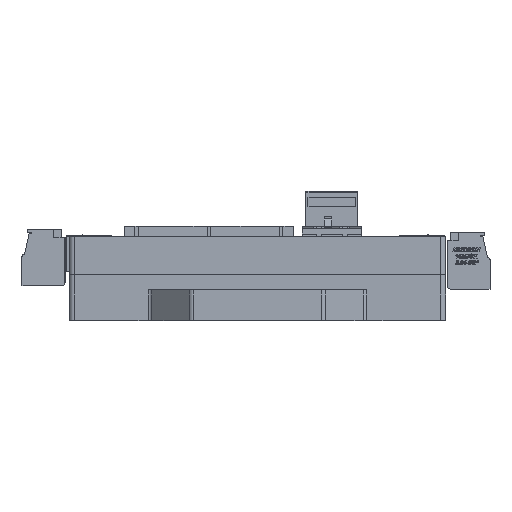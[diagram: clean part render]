
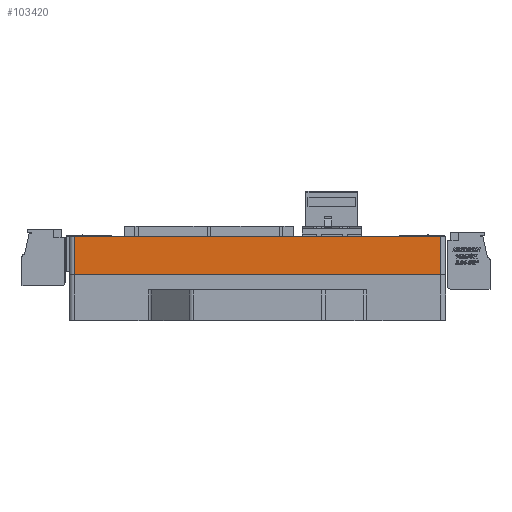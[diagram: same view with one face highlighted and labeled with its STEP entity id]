
A CAD part, left-side view. The second image highlights one B-rep face of the part: STEP entity #103420.
In plain terms, the highlighted planar face has unit normal (-1, 0, 0).
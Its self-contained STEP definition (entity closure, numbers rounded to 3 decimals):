
#2312 = LINE ( 'NONE', #32629, #43693 ) ;
#8476 = VECTOR ( 'NONE', #103336, 1000. ) ;
#13841 = VECTOR ( 'NONE', #193120, 1000. ) ;
#20263 = LINE ( 'NONE', #112323, #13841 ) ;
#22210 = CARTESIAN_POINT ( 'NONE',  ( -4.505, -1.6, 8.5 ) ) ;
#31481 = ORIENTED_EDGE ( 'NONE', *, *, #128496, .T. ) ;
#32629 = CARTESIAN_POINT ( 'NONE',  ( -4.505, 70.17, 6.5 ) ) ;
#36297 = FACE_OUTER_BOUND ( 'NONE', #109167, .T. ) ;
#37496 = LINE ( 'NONE', #170069, #8476 ) ;
#40547 = VECTOR ( 'NONE', #84112, 1000. ) ;
#42444 = CARTESIAN_POINT ( 'NONE',  ( -4.505, -1.6, 1. ) ) ;
#43003 = VERTEX_POINT ( 'NONE', #150410 ) ;
#43693 = VECTOR ( 'NONE', #129692, 1000. ) ;
#49930 = CARTESIAN_POINT ( 'NONE',  ( -4.505, 70.17, 1. ) ) ;
#52054 = ORIENTED_EDGE ( 'NONE', *, *, #157704, .T. ) ;
#52461 = DIRECTION ( 'NONE',  ( 0., 1., 0. ) ) ;
#62008 = ORIENTED_EDGE ( 'NONE', *, *, #114399, .F. ) ;
#76444 = VERTEX_POINT ( 'NONE', #42444 ) ;
#84112 = DIRECTION ( 'NONE',  ( 0., 0., -1. ) ) ;
#101060 = CARTESIAN_POINT ( 'NONE',  ( -4.505, 0., 6.5 ) ) ;
#103336 = DIRECTION ( 'NONE',  ( 0., -1., 0. ) ) ;
#103420 = ADVANCED_FACE ( 'NONE', ( #36297 ), #164664, .F. ) ;
#109167 = EDGE_LOOP ( 'NONE', ( #31481, #145726, #62008, #52054 ) ) ;
#112323 = CARTESIAN_POINT ( 'NONE',  ( -4.505, 0., 8.5 ) ) ;
#114399 = EDGE_CURVE ( 'NONE', #43003, #145102, #20263, .T. ) ;
#128496 = EDGE_CURVE ( 'NONE', #198581, #76444, #37496, .T. ) ;
#129692 = DIRECTION ( 'NONE',  ( 0., 0., -1. ) ) ;
#145102 = VERTEX_POINT ( 'NONE', #22210 ) ;
#145726 = ORIENTED_EDGE ( 'NONE', *, *, #196915, .F. ) ;
#150410 = CARTESIAN_POINT ( 'NONE',  ( -4.505, 70.17, 8.5 ) ) ;
#157704 = EDGE_CURVE ( 'NONE', #43003, #198581, #2312, .T. ) ;
#164664 = PLANE ( 'NONE',  #196953 ) ;
#170069 = CARTESIAN_POINT ( 'NONE',  ( -4.505, 0., 1. ) ) ;
#186447 = CARTESIAN_POINT ( 'NONE',  ( -4.505, -1.6, 6.5 ) ) ;
#193120 = DIRECTION ( 'NONE',  ( 0., -1., 0. ) ) ;
#196915 = EDGE_CURVE ( 'NONE', #145102, #76444, #199468, .T. ) ;
#196953 = AXIS2_PLACEMENT_3D ( 'NONE', #101060, #196991, #52461 ) ;
#196991 = DIRECTION ( 'NONE',  ( 1., 0., 0. ) ) ;
#198581 = VERTEX_POINT ( 'NONE', #49930 ) ;
#199468 = LINE ( 'NONE', #186447, #40547 ) ;
